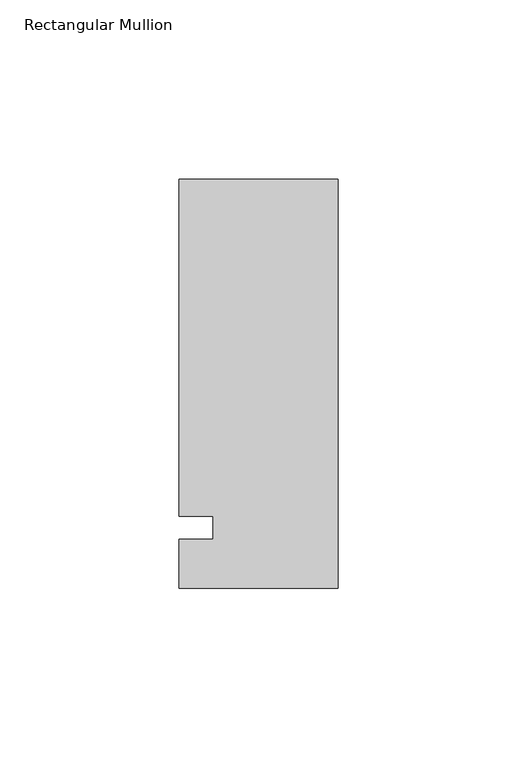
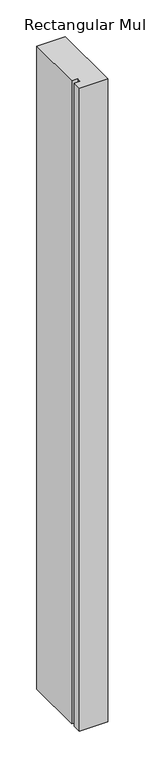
"""IFC4 building model written with IfcOpenShell, lengths in millimetres: member geometry, Rectangular Mullion : Kawneer-TRIFAB_VG_450_BACK_SB_Sill."""

from ifc_helpers import new_model, si_unit, frame, origin, place, context, project, spatial, polyline, outline, extrude, source, transform, mapped, element, save


def rectangular_mullion_6010078c(model_context):
    return source(origin(), model_context, "Body", "SweptSolid", [
        extrude(outline(polyline([(-44.45, -16.8840492), (-44.45, -3.175), (-34.925, -3.175), (-34.925, 3.175), (-44.45, 3.175), (-44.45, 97.4159508), (0.0, 97.4159508), (0.0, -16.8840492), (-44.45, -16.8840492)])), frame((0.0, 0.0, -1062.3801312), z_axis=(0.0, 0.0, 1.0), x_axis=(1.0, 0.0, 0.0)), (0.0, 0.0, 1.0), 1062.3801312),
    ])


if __name__ == "__main__":
    model = new_model("IFC4")
    model_context = context("Model", 3, world=origin())
    ifc_project = project(units=[si_unit("LENGTHUNIT", "METRE", prefix="MILLI")], contexts=[model_context])
    site = spatial("IfcSite", under=ifc_project)
    building = spatial("IfcBuilding", under=site)
    placement = place(None, origin())
    rectangular_mullion_shape = rectangular_mullion_6010078c(model_context)
    element("IfcMember", 1, ObjectType="Rectangular Mullion : Kawneer-TRIFAB_VG_450_BACK_SB_Sill", at=placement, inside=building, context=model_context, shape_type="MappedRepresentation", body=[
        mapped(rectangular_mullion_shape, transform((0.0, 0.0, 0.0), x_axis=(1.0, 0.0, 0.0), y_axis=(0.0, 1.0, 0.0), z_axis=(0.0, 0.0, 1.0))),
    ])
    save(model, "model.ifc")
